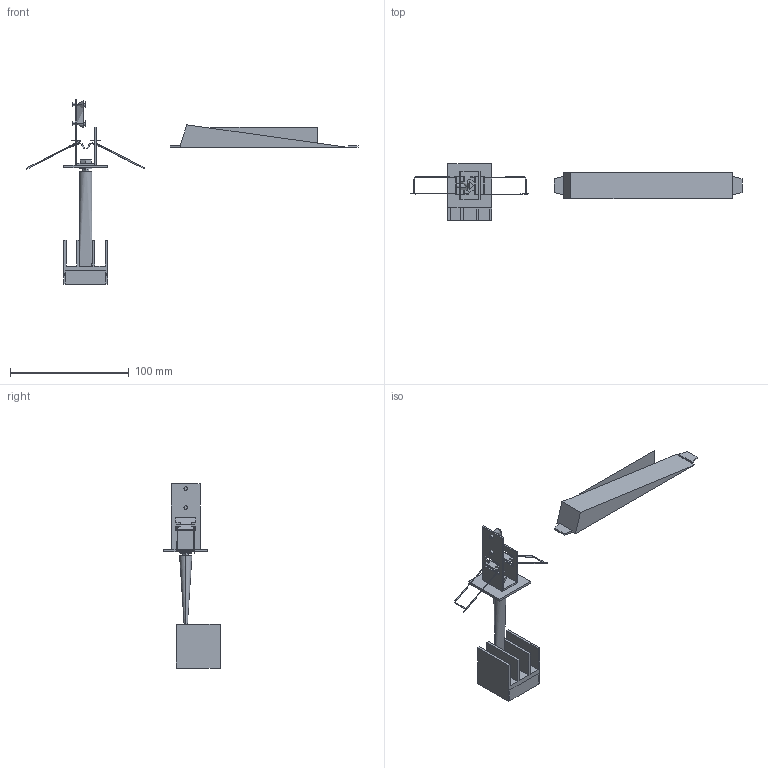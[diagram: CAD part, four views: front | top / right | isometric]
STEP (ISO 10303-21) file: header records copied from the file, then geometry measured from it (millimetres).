
FILE_DESCRIPTION(/* description */ (''),/* implementation_level */ '2;1');
FILE_NAME(/* name */ 'M028504_37Cube_3D',/* time_stamp */ '2012-07-09T13:55:00+02:00',/* author */ (''),/* organization */ (''),/* preprocessor_version */ 'ST-DEVELOPER v10',/* originating_system */ '',/* authorisation */ '');
FILE_SCHEMA (('CONFIG_CONTROL_DESIGN'));
Length unit declared in the file: millimetre
Products named in the file (1): 1
Bounding box: 279.29 x 47.5 x 155 mm (x, y, z)
Volume: 68928.3 mm3; surface area: 44581.2 mm2
Topology: 14 solids, 68 shells, 233 faces, 791 edges, 618 vertices
Faces by surface type: plane 121, bspline 112
Entity records: 9064 total; most frequent: CARTESIAN_POINT 4622, ORIENTED_EDGE 1232, EDGE_CURVE 783, VERTEX_POINT 607, B_SPLINE_CURVE_WITH_KNOTS 485, EDGE_LOOP 248, ADVANCED_FACE 233, FACE_OUTER_BOUND 233
